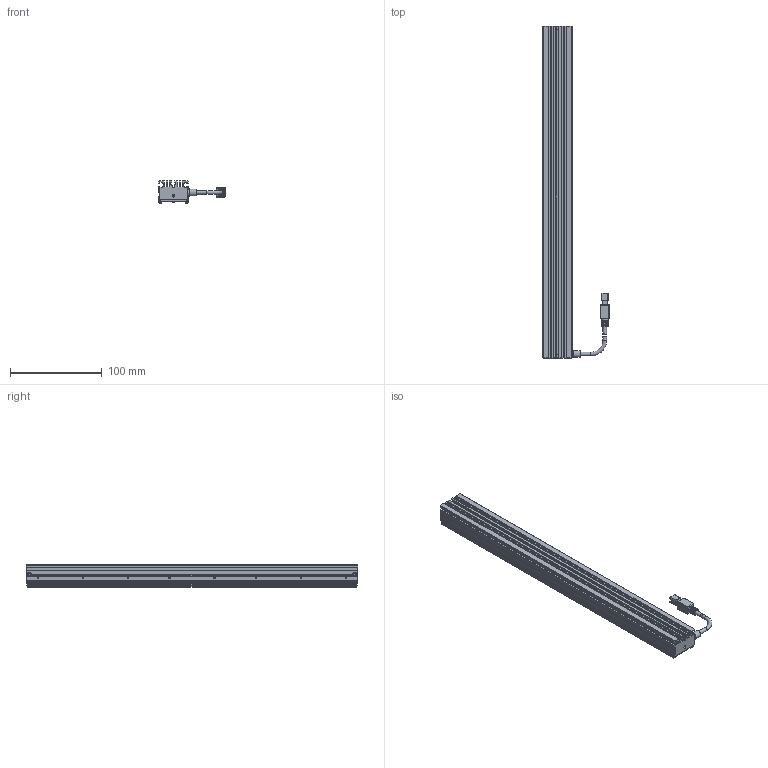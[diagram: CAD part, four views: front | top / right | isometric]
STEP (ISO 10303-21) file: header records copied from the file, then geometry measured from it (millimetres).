
FILE_DESCRIPTION (( 'STEP AP203' ), '1' );
FILE_NAME ('OPT-ILI36232-IR-V1.0U尨砩芞.STEP', '2025-01-18T08:29:59', ( '' ), ( '' ), 'SwSTEP 2.0', 'SolidWorks 2016', '' );
FILE_SCHEMA (( 'CONFIG_CONTROL_DESIGN' ));
Length unit declared in the file: millimetre
Products named in the file (1): OPT-ILI36232-IR-V1.0U尨砩芞
Bounding box: 72.6 x 362 x 24 mm (x, y, z)
Volume: 218628.9 mm3; surface area: 90616.4 mm2
Topology: 5 solids, 15 shells, 655 faces, 1675 edges, 1077 vertices
Faces by surface type: plane 447, cylinder 148, cone 30, bspline 20, torus 10
Full cylindrical faces by diameter (mm): 1.1 x2, 1.4 x4, 1.6 x23, 1.8 x2, 2 x7, 2.4 x7, 2.5 x2, 2.6 x2, 3 x2, 3.5 x1, 4.1 x3, 7.5 x2, 8 x1
Entity records: 19741 total; most frequent: CARTESIAN_POINT 4442, ORIENTED_EDGE 3106, DIRECTION 3040, EDGE_CURVE 1553, LINE 1070, VECTOR 1070, VERTEX_POINT 1045, AXIS2_PLACEMENT_3D 985
